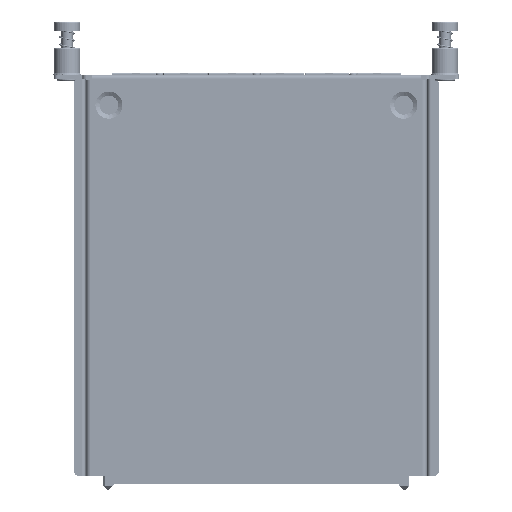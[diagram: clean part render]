
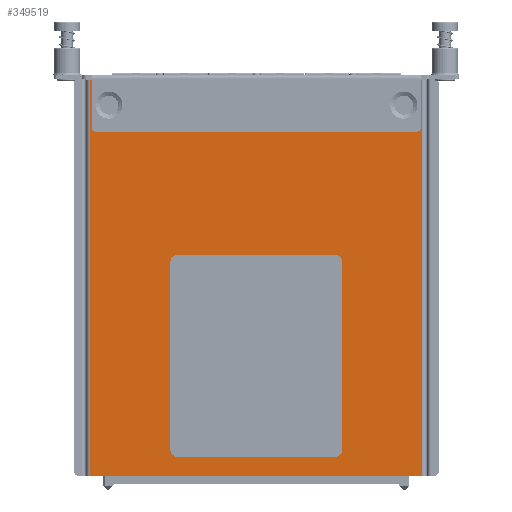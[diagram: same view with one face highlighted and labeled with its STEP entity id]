
A CAD part, front view. The second image highlights one B-rep face of the part: STEP entity #349519.
In plain terms, the highlighted planar face has unit normal (0, -1, 0).
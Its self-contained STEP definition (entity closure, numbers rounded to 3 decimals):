
#76739=DIRECTION('',(0.,0.,-1.));
#76740=VECTOR('',#76739,104.7);
#76741=CARTESIAN_POINT('',(-43.9,-19.3,-0.3));
#76742=LINE('',#76741,#76740);
#76764=CARTESIAN_POINT('',(-42.5,-19.3,-1.3));
#76765=DIRECTION('',(0.,1.,0.));
#76766=DIRECTION('',(0.,0.,1.));
#76767=AXIS2_PLACEMENT_3D('',#76764,#76765,#76766);
#76769=DIRECTION('',(0.,0.,-1.));
#76770=VECTOR('',#76769,0.7);
#76771=CARTESIAN_POINT('',(-41.5,-19.3,-1.3));
#76772=LINE('',#76771,#76770);
#76773=DIRECTION('',(1.,0.,0.));
#76774=VECTOR('',#76773,8.);
#76775=CARTESIAN_POINT('',(-41.5,-19.3,-2.));
#76776=LINE('',#76775,#76774);
#76777=CARTESIAN_POINT('',(-33.5,-19.3,-3.));
#76778=DIRECTION('',(0.,1.,0.));
#76779=DIRECTION('',(0.,0.,1.));
#76780=AXIS2_PLACEMENT_3D('',#76777,#76778,#76779);
#76782=DIRECTION('',(1.,0.,0.));
#76783=VECTOR('',#76782,65.);
#76784=CARTESIAN_POINT('',(-32.5,-19.3,-12.));
#76785=LINE('',#76784,#76783);
#76786=DIRECTION('',(0.,0.,1.));
#76787=VECTOR('',#76786,9.);
#76788=CARTESIAN_POINT('',(32.5,-19.3,-12.));
#76789=LINE('',#76788,#76787);
#76790=CARTESIAN_POINT('',(33.5,-19.3,-3.));
#76791=DIRECTION('',(0.,1.,0.));
#76792=DIRECTION('',(-1.,0.,0.));
#76793=AXIS2_PLACEMENT_3D('',#76790,#76791,#76792);
#76795=DIRECTION('',(1.,0.,0.));
#76796=VECTOR('',#76795,8.);
#76797=CARTESIAN_POINT('',(33.5,-19.3,-2.));
#76798=LINE('',#76797,#76796);
#76799=DIRECTION('',(0.,0.,1.));
#76800=VECTOR('',#76799,0.7);
#76801=CARTESIAN_POINT('',(41.5,-19.3,-2.));
#76802=LINE('',#76801,#76800);
#76803=CARTESIAN_POINT('',(42.5,-19.3,-1.3));
#76804=DIRECTION('',(0.,1.,0.));
#76805=DIRECTION('',(-1.,0.,0.));
#76806=AXIS2_PLACEMENT_3D('',#76803,#76804,#76805);
#76808=DIRECTION('',(1.,0.,0.));
#76809=VECTOR('',#76808,1.4);
#76810=CARTESIAN_POINT('',(42.5,-19.3,-0.3));
#76811=LINE('',#76810,#76809);
#76812=DIRECTION('',(1.,0.,0.));
#76813=VECTOR('',#76812,1.4);
#76814=CARTESIAN_POINT('',(-43.9,-19.3,-0.3));
#76815=LINE('',#76814,#76813);
#76816=CARTESIAN_POINT('',(-39.,-19.3,-7.));
#76817=DIRECTION('',(0.,-1.,0.));
#76818=DIRECTION('',(1.,0.,0.));
#76819=AXIS2_PLACEMENT_3D('',#76816,#76817,#76818);
#76821=CARTESIAN_POINT('',(-39.,-19.3,-7.));
#76822=DIRECTION('',(0.,-1.,0.));
#76823=DIRECTION('',(-1.,0.,0.));
#76824=AXIS2_PLACEMENT_3D('',#76821,#76822,#76823);
#76826=CARTESIAN_POINT('',(39.,-19.3,-7.));
#76827=DIRECTION('',(0.,-1.,0.));
#76828=DIRECTION('',(1.,0.,0.));
#76829=AXIS2_PLACEMENT_3D('',#76826,#76827,#76828);
#76831=CARTESIAN_POINT('',(39.,-19.3,-7.));
#76832=DIRECTION('',(0.,-1.,0.));
#76833=DIRECTION('',(-1.,0.,0.));
#76834=AXIS2_PLACEMENT_3D('',#76831,#76832,#76833);
#76836=CARTESIAN_POINT('',(20.75,-19.3,-48.55));
#76837=DIRECTION('',(0.,-1.,0.));
#76838=DIRECTION('',(1.,0.,0.));
#76839=AXIS2_PLACEMENT_3D('',#76836,#76837,#76838);
#76841=DIRECTION('',(1.,0.,0.));
#76842=VECTOR('',#76841,41.5);
#76843=CARTESIAN_POINT('',(-20.75,-19.3,-46.55));
#76844=LINE('',#76843,#76842);
#76845=CARTESIAN_POINT('',(-20.75,-19.3,-48.55));
#76846=DIRECTION('',(0.,-1.,0.));
#76847=DIRECTION('',(0.,0.,1.));
#76848=AXIS2_PLACEMENT_3D('',#76845,#76846,#76847);
#76850=DIRECTION('',(0.,0.,1.));
#76851=VECTOR('',#76850,49.5);
#76852=CARTESIAN_POINT('',(-22.75,-19.3,-98.05));
#76853=LINE('',#76852,#76851);
#76854=CARTESIAN_POINT('',(-20.75,-19.3,-98.05));
#76855=DIRECTION('',(0.,-1.,0.));
#76856=DIRECTION('',(-1.,0.,0.));
#76857=AXIS2_PLACEMENT_3D('',#76854,#76855,#76856);
#76859=DIRECTION('',(-1.,0.,0.));
#76860=VECTOR('',#76859,41.5);
#76861=CARTESIAN_POINT('',(20.75,-19.3,-100.05));
#76862=LINE('',#76861,#76860);
#76863=CARTESIAN_POINT('',(20.75,-19.3,-98.05));
#76864=DIRECTION('',(0.,-1.,0.));
#76865=DIRECTION('',(0.,0.,-1.));
#76866=AXIS2_PLACEMENT_3D('',#76863,#76864,#76865);
#76868=DIRECTION('',(0.,0.,-1.));
#76869=VECTOR('',#76868,49.5);
#76870=CARTESIAN_POINT('',(22.75,-19.3,-48.55));
#76871=LINE('',#76870,#76869);
#82580=DIRECTION('',(1.,0.,0.));
#82581=VECTOR('',#82580,87.8);
#82582=CARTESIAN_POINT('',(-43.9,-19.3,-105.));
#82583=LINE('',#82582,#82581);
#82601=DIRECTION('',(0.,0.,1.));
#82602=VECTOR('',#82601,104.7);
#82603=CARTESIAN_POINT('',(43.9,-19.3,-105.));
#82604=LINE('',#82603,#82602);
#82712=DIRECTION('',(0.,0.,1.));
#82713=VECTOR('',#82712,9.);
#82714=CARTESIAN_POINT('',(-32.5,-19.3,-12.));
#82715=LINE('',#82714,#82713);
#263685=CARTESIAN_POINT('',(-42.5,-19.3,-0.3));
#263686=CARTESIAN_POINT('',(-41.5,-19.3,-1.3));
#263687=VERTEX_POINT('',#263685);
#263688=VERTEX_POINT('',#263686);
#263689=CARTESIAN_POINT('',(-41.5,-19.3,-2.));
#263690=VERTEX_POINT('',#263689);
#263691=CARTESIAN_POINT('',(-33.5,-19.3,-2.));
#263692=VERTEX_POINT('',#263691);
#263693=CARTESIAN_POINT('',(-32.5,-19.3,-3.));
#263694=VERTEX_POINT('',#263693);
#263695=CARTESIAN_POINT('',(-32.5,-19.3,-12.));
#263696=VERTEX_POINT('',#263695);
#263697=CARTESIAN_POINT('',(32.5,-19.3,-12.));
#263698=VERTEX_POINT('',#263697);
#263699=CARTESIAN_POINT('',(32.5,-19.3,-3.));
#263700=VERTEX_POINT('',#263699);
#263701=CARTESIAN_POINT('',(33.5,-19.3,-2.));
#263702=VERTEX_POINT('',#263701);
#263703=CARTESIAN_POINT('',(41.5,-19.3,-2.));
#263704=VERTEX_POINT('',#263703);
#263705=CARTESIAN_POINT('',(41.5,-19.3,-1.3));
#263706=VERTEX_POINT('',#263705);
#263707=CARTESIAN_POINT('',(42.5,-19.3,-0.3));
#263708=VERTEX_POINT('',#263707);
#263709=CARTESIAN_POINT('',(43.9,-19.3,-0.3));
#263710=VERTEX_POINT('',#263709);
#263711=CARTESIAN_POINT('',(43.9,-19.3,-105.));
#263712=VERTEX_POINT('',#263711);
#263713=CARTESIAN_POINT('',(-43.9,-19.3,-105.));
#263714=VERTEX_POINT('',#263713);
#263715=CARTESIAN_POINT('',(-43.9,-19.3,-0.3));
#263716=VERTEX_POINT('',#263715);
#263817=CARTESIAN_POINT('',(40.55,-19.3,-7.));
#263818=CARTESIAN_POINT('',(37.45,-19.3,-7.));
#263819=VERTEX_POINT('',#263817);
#263820=VERTEX_POINT('',#263818);
#263853=CARTESIAN_POINT('',(-37.45,-19.3,-7.));
#263854=CARTESIAN_POINT('',(-40.55,-19.3,-7.));
#263855=VERTEX_POINT('',#263853);
#263856=VERTEX_POINT('',#263854);
#264013=CARTESIAN_POINT('',(22.75,-19.3,-48.55));
#264014=CARTESIAN_POINT('',(20.75,-19.3,-46.55));
#264015=VERTEX_POINT('',#264013);
#264016=VERTEX_POINT('',#264014);
#264017=CARTESIAN_POINT('',(-20.75,-19.3,-46.55));
#264018=VERTEX_POINT('',#264017);
#264019=CARTESIAN_POINT('',(-22.75,-19.3,-48.55));
#264020=VERTEX_POINT('',#264019);
#264021=CARTESIAN_POINT('',(-22.75,-19.3,-98.05));
#264022=VERTEX_POINT('',#264021);
#264023=CARTESIAN_POINT('',(-20.75,-19.3,-100.05));
#264024=VERTEX_POINT('',#264023);
#264025=CARTESIAN_POINT('',(20.75,-19.3,-100.05));
#264026=VERTEX_POINT('',#264025);
#264027=CARTESIAN_POINT('',(22.75,-19.3,-98.05));
#264028=VERTEX_POINT('',#264027);
#349453=CARTESIAN_POINT('',(0.,-19.3,0.));
#349454=DIRECTION('',(0.,1.,0.));
#349455=DIRECTION('',(1.,0.,0.));
#349456=AXIS2_PLACEMENT_3D('',#349453,#349454,#349455);
#349457=PLANE('',#349456);
#349458=ORIENTED_EDGE('',*,*,#349436,.T.);
#349460=ORIENTED_EDGE('',*,*,#349459,.T.);
#349462=ORIENTED_EDGE('',*,*,#349461,.T.);
#349464=ORIENTED_EDGE('',*,*,#349463,.T.);
#349466=ORIENTED_EDGE('',*,*,#349465,.F.);
#349468=ORIENTED_EDGE('',*,*,#349467,.T.);
#349470=ORIENTED_EDGE('',*,*,#349469,.T.);
#349472=ORIENTED_EDGE('',*,*,#349471,.T.);
#349474=ORIENTED_EDGE('',*,*,#349473,.T.);
#349476=ORIENTED_EDGE('',*,*,#349475,.T.);
#349478=ORIENTED_EDGE('',*,*,#349477,.T.);
#349480=ORIENTED_EDGE('',*,*,#349479,.T.);
#349482=ORIENTED_EDGE('',*,*,#349481,.F.);
#349484=ORIENTED_EDGE('',*,*,#349483,.F.);
#349485=ORIENTED_EDGE('',*,*,#349376,.F.);
#349486=ORIENTED_EDGE('',*,*,#349416,.T.);
#349487=EDGE_LOOP('',(#349458,#349460,#349462,#349464,#349466,#349468,#349470,
#349472,#349474,#349476,#349478,#349480,#349482,#349484,#349485,#349486));
#349488=FACE_OUTER_BOUND('',#349487,.F.);
#349490=ORIENTED_EDGE('',*,*,#349489,.T.);
#349492=ORIENTED_EDGE('',*,*,#349491,.T.);
#349493=EDGE_LOOP('',(#349490,#349492));
#349494=FACE_BOUND('',#349493,.F.);
#349496=ORIENTED_EDGE('',*,*,#349495,.T.);
#349498=ORIENTED_EDGE('',*,*,#349497,.T.);
#349499=EDGE_LOOP('',(#349496,#349498));
#349500=FACE_BOUND('',#349499,.F.);
#349502=ORIENTED_EDGE('',*,*,#349501,.T.);
#349504=ORIENTED_EDGE('',*,*,#349503,.F.);
#349506=ORIENTED_EDGE('',*,*,#349505,.T.);
#349508=ORIENTED_EDGE('',*,*,#349507,.F.);
#349510=ORIENTED_EDGE('',*,*,#349509,.T.);
#349512=ORIENTED_EDGE('',*,*,#349511,.F.);
#349514=ORIENTED_EDGE('',*,*,#349513,.T.);
#349516=ORIENTED_EDGE('',*,*,#349515,.F.);
#349517=EDGE_LOOP('',(#349502,#349504,#349506,#349508,#349510,#349512,#349514,
#349516));
#349518=FACE_BOUND('',#349517,.F.);
#76768=CIRCLE('',#76767,1.);
#76781=CIRCLE('',#76780,1.);
#76794=CIRCLE('',#76793,1.);
#76807=CIRCLE('',#76806,1.);
#76820=CIRCLE('',#76819,1.55);
#76825=CIRCLE('',#76824,1.55);
#76830=CIRCLE('',#76829,1.55);
#76835=CIRCLE('',#76834,1.55);
#76840=CIRCLE('',#76839,2.);
#76849=CIRCLE('',#76848,2.);
#76858=CIRCLE('',#76857,2.);
#76867=CIRCLE('',#76866,2.);
#349376=EDGE_CURVE('',#263716,#263714,#76742,.T.);
#349416=EDGE_CURVE('',#263716,#263687,#76815,.T.);
#349436=EDGE_CURVE('',#263687,#263688,#76768,.T.);
#349459=EDGE_CURVE('',#263688,#263690,#76772,.T.);
#349461=EDGE_CURVE('',#263690,#263692,#76776,.T.);
#349463=EDGE_CURVE('',#263692,#263694,#76781,.T.);
#349465=EDGE_CURVE('',#263696,#263694,#82715,.T.);
#349467=EDGE_CURVE('',#263696,#263698,#76785,.T.);
#349469=EDGE_CURVE('',#263698,#263700,#76789,.T.);
#349471=EDGE_CURVE('',#263700,#263702,#76794,.T.);
#349473=EDGE_CURVE('',#263702,#263704,#76798,.T.);
#349475=EDGE_CURVE('',#263704,#263706,#76802,.T.);
#349477=EDGE_CURVE('',#263706,#263708,#76807,.T.);
#349479=EDGE_CURVE('',#263708,#263710,#76811,.T.);
#349481=EDGE_CURVE('',#263712,#263710,#82604,.T.);
#349483=EDGE_CURVE('',#263714,#263712,#82583,.T.);
#349489=EDGE_CURVE('',#263855,#263856,#76820,.T.);
#349491=EDGE_CURVE('',#263856,#263855,#76825,.T.);
#349495=EDGE_CURVE('',#263819,#263820,#76830,.T.);
#349497=EDGE_CURVE('',#263820,#263819,#76835,.T.);
#349501=EDGE_CURVE('',#264015,#264016,#76840,.T.);
#349503=EDGE_CURVE('',#264018,#264016,#76844,.T.);
#349505=EDGE_CURVE('',#264018,#264020,#76849,.T.);
#349507=EDGE_CURVE('',#264022,#264020,#76853,.T.);
#349509=EDGE_CURVE('',#264022,#264024,#76858,.T.);
#349511=EDGE_CURVE('',#264026,#264024,#76862,.T.);
#349513=EDGE_CURVE('',#264026,#264028,#76867,.T.);
#349515=EDGE_CURVE('',#264015,#264028,#76871,.T.);
#349519=ADVANCED_FACE('',(#349488,#349494,#349500,#349518),#349457,.F.);
